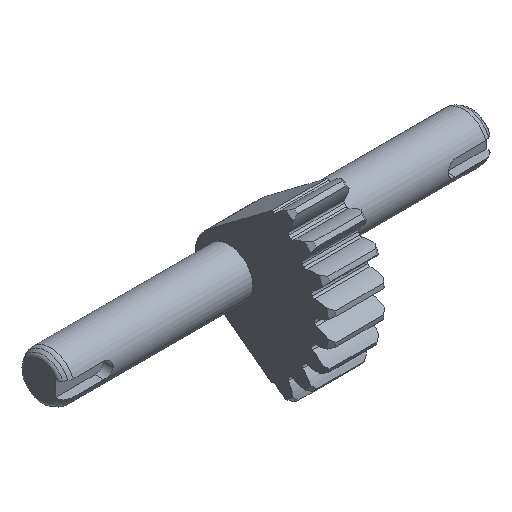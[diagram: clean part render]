
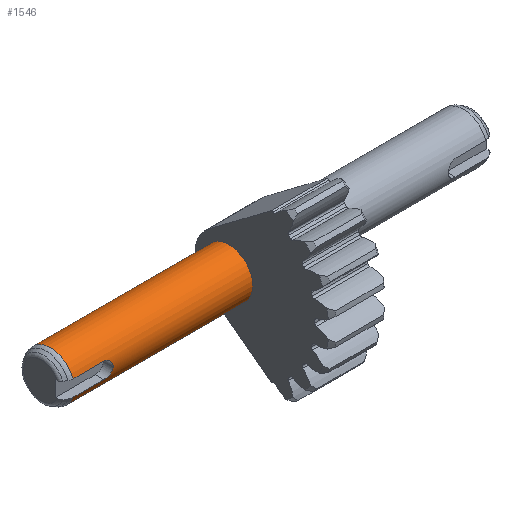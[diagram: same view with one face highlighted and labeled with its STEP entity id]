
A CAD part, isometric view. The second image highlights one B-rep face of the part: STEP entity #1546.
In plain terms, the highlighted cylindrical face has radius 6 mm (diameter 12 mm), a full revolution.
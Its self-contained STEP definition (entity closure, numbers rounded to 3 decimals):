
#18=CYLINDRICAL_SURFACE('',#1666,6.);
#96=LINE('',#2458,#172);
#98=LINE('',#2514,#174);
#102=LINE('',#2523,#178);
#172=VECTOR('',#1891,10.);
#174=VECTOR('',#1911,10.);
#178=VECTOR('',#1921,6.);
#268=FACE_OUTER_BOUND('',#356,.T.);
#356=EDGE_LOOP('',(#1081,#1082,#1083,#1084,#1085,#1086,#1087,#1088));
#439=CIRCLE('',#1654,6.);
#444=CIRCLE('',#1667,6.);
#571=B_SPLINE_CURVE_WITH_KNOTS('',3,(#2489,#2490,#2491,#2492,#2493,#2494,
#2495,#2496,#2497,#2498),.UNSPECIFIED.,.F.,.F.,(4,2,2,2,4),(-0.608,
-0.532,-0.456,-0.38,-0.304),
 .UNSPECIFIED.);
#572=B_SPLINE_CURVE_WITH_KNOTS('',3,(#2503,#2504,#2505,#2506,#2507,#2508,
#2509,#2510,#2511,#2512),.UNSPECIFIED.,.F.,.F.,(4,2,2,2,4),(-0.304,
-0.228,-0.152,-0.076,0.),
 .UNSPECIFIED.);
#617=VERTEX_POINT('',#2420);
#620=VERTEX_POINT('',#2430);
#625=VERTEX_POINT('',#2456);
#629=VERTEX_POINT('',#2488);
#631=VERTEX_POINT('',#2501);
#633=VERTEX_POINT('',#2521);
#790=EDGE_CURVE('',#620,#617,#439,.T.);
#796=EDGE_CURVE('',#620,#625,#96,.T.);
#803=EDGE_CURVE('',#625,#629,#571,.T.);
#806=EDGE_CURVE('',#629,#631,#572,.T.);
#807=EDGE_CURVE('',#631,#617,#98,.T.);
#811=EDGE_CURVE('',#633,#633,#444,.T.);
#812=EDGE_CURVE('',#633,#629,#102,.T.);
#1081=ORIENTED_EDGE('',*,*,#811,.F.);
#1082=ORIENTED_EDGE('',*,*,#812,.T.);
#1083=ORIENTED_EDGE('',*,*,#806,.T.);
#1084=ORIENTED_EDGE('',*,*,#807,.T.);
#1085=ORIENTED_EDGE('',*,*,#790,.F.);
#1086=ORIENTED_EDGE('',*,*,#796,.T.);
#1087=ORIENTED_EDGE('',*,*,#803,.T.);
#1088=ORIENTED_EDGE('',*,*,#812,.F.);
#1546=ADVANCED_FACE('',(#268),#18,.T.);
#1654=AXIS2_PLACEMENT_3D('',#2437,#1884,#1885);
#1666=AXIS2_PLACEMENT_3D('',#2520,#1917,#1918);
#1667=AXIS2_PLACEMENT_3D('',#2522,#1919,#1920);
#1884=DIRECTION('center_axis',(-1.,0.,0.));
#1885=DIRECTION('ref_axis',(0.,1.,0.));
#1891=DIRECTION('',(1.,0.,0.));
#1911=DIRECTION('',(-1.,0.,0.));
#1917=DIRECTION('center_axis',(1.,0.,0.));
#1918=DIRECTION('ref_axis',(0.,1.,0.));
#1919=DIRECTION('center_axis',(1.,0.,0.));
#1920=DIRECTION('ref_axis',(0.,0.,-1.));
#1921=DIRECTION('',(-1.,0.,0.));
#2420=CARTESIAN_POINT('',(-51.732,-5.657,-2.));
#2430=CARTESIAN_POINT('',(-51.732,-5.657,2.));
#2437=CARTESIAN_POINT('Origin',(-51.732,0.,
0.));
#2456=CARTESIAN_POINT('',(-44.,-5.657,2.));
#2458=CARTESIAN_POINT('',(-30.5,-5.657,2.));
#2488=CARTESIAN_POINT('',(-42.,-6.,0.));
#2489=CARTESIAN_POINT('Ctrl Pts',(-44.,-5.657,2.));
#2490=CARTESIAN_POINT('Ctrl Pts',(-43.747,-5.657,2.));
#2491=CARTESIAN_POINT('Ctrl Pts',(-43.478,-5.676,1.949));
#2492=CARTESIAN_POINT('Ctrl Pts',(-42.986,-5.742,1.744));
#2493=CARTESIAN_POINT('Ctrl Pts',(-42.762,-5.788,1.591));
#2494=CARTESIAN_POINT('Ctrl Pts',(-42.409,-5.874,1.238));
#2495=CARTESIAN_POINT('Ctrl Pts',(-42.256,-5.919,1.014));
#2496=CARTESIAN_POINT('Ctrl Pts',(-42.051,-5.982,0.522));
#2497=CARTESIAN_POINT('Ctrl Pts',(-42.,-6.,0.253));
#2498=CARTESIAN_POINT('Ctrl Pts',(-42.,-6.,0.));
#2501=CARTESIAN_POINT('',(-44.,-5.657,-2.));
#2503=CARTESIAN_POINT('Ctrl Pts',(-42.,-6.,0.));
#2504=CARTESIAN_POINT('Ctrl Pts',(-42.,-6.,-0.253));
#2505=CARTESIAN_POINT('Ctrl Pts',(-42.051,-5.982,-0.522));
#2506=CARTESIAN_POINT('Ctrl Pts',(-42.256,-5.919,-1.014));
#2507=CARTESIAN_POINT('Ctrl Pts',(-42.409,-5.874,-1.238));
#2508=CARTESIAN_POINT('Ctrl Pts',(-42.762,-5.788,-1.591));
#2509=CARTESIAN_POINT('Ctrl Pts',(-42.986,-5.742,-1.744));
#2510=CARTESIAN_POINT('Ctrl Pts',(-43.478,-5.676,-1.949));
#2511=CARTESIAN_POINT('Ctrl Pts',(-43.747,-5.657,-2.));
#2512=CARTESIAN_POINT('Ctrl Pts',(-44.,-5.657,-2.));
#2514=CARTESIAN_POINT('',(-30.5,-5.657,-2.));
#2520=CARTESIAN_POINT('Origin',(-30.5,0.,0.));
#2521=CARTESIAN_POINT('',(-7.,-6.,0.));
#2522=CARTESIAN_POINT('Origin',(-7.,0.,0.));
#2523=CARTESIAN_POINT('',(-30.5,-6.,0.));
